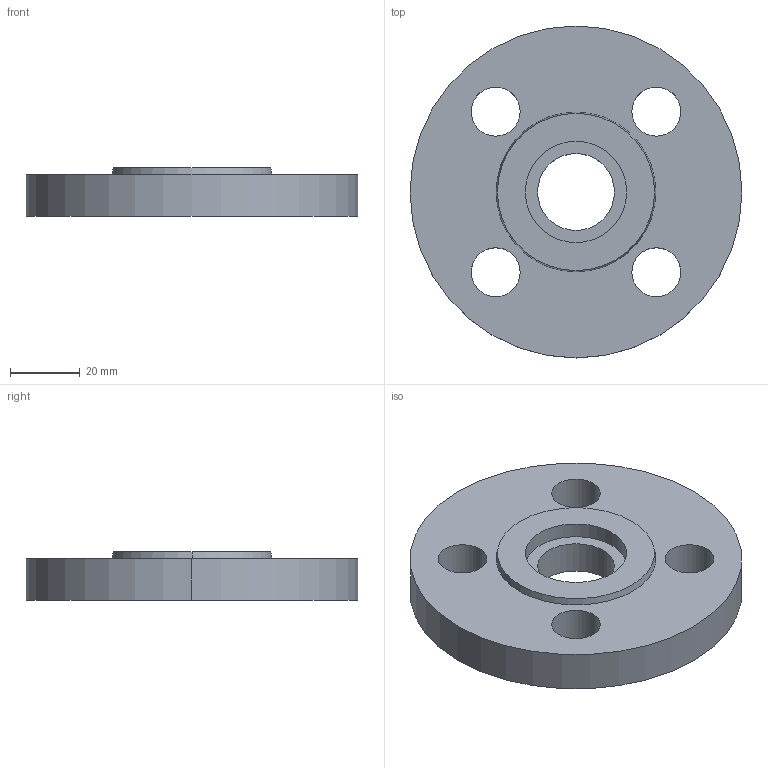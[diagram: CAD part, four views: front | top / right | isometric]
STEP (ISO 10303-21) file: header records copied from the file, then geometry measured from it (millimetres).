
FILE_DESCRIPTION (( 'STEP AP214' ), '1' );
FILE_NAME ('PN40 DN15 Type 01 - Type G Face.STEP', '2018-12-29T15:11:25', ( '' ), ( '' ), 'SwSTEP 2.0', 'SolidWorks 2019', '' );
FILE_SCHEMA (( 'AUTOMOTIVE_DESIGN' ));
Length unit declared in the file: millimetre
Products named in the file (1): PN40 DN15 Type 01 - Type G Face
Bounding box: 95 x 95 x 14 mm (x, y, z)
Volume: 74317 mm3; surface area: 19182.9 mm2
Topology: 1 solids, 1 shells, 20 faces, 48 edges, 32 vertices
Faces by surface type: cylinder 14, plane 4, cone 2
Entity records: 658 total; most frequent: DIRECTION 122, CARTESIAN_POINT 101, ORIENTED_EDGE 96, AXIS2_PLACEMENT_3D 53, EDGE_CURVE 48, CIRCLE 32, EDGE_LOOP 32, VERTEX_POINT 32
